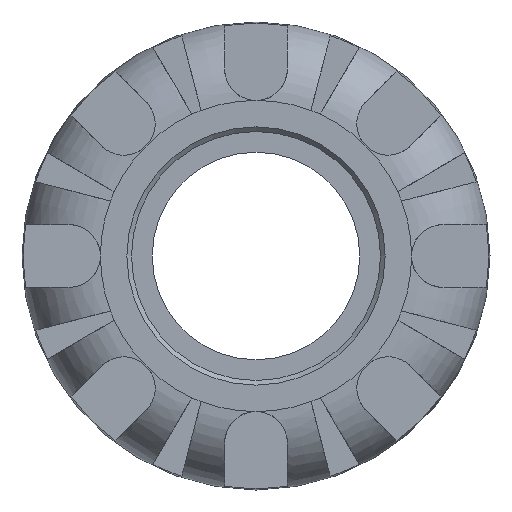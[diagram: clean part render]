
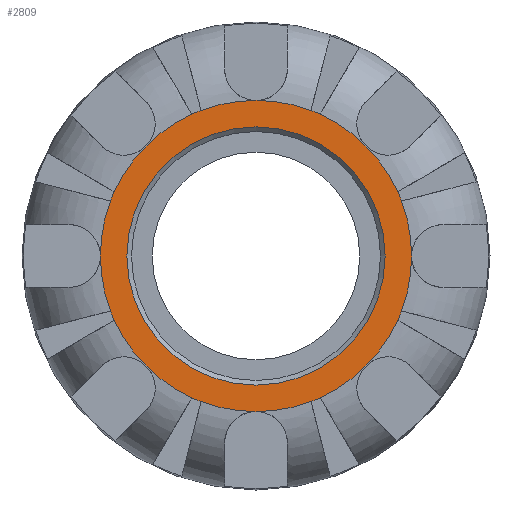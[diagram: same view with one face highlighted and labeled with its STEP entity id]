
A CAD part, left-side view. The second image highlights one B-rep face of the part: STEP entity #2809.
In plain terms, the highlighted planar face has unit normal (-1, 0, 0).
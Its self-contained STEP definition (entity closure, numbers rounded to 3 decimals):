
#25=FACE_BOUND('',#490,.T.);
#114=CIRCLE('',#3048,12.97);
#115=CIRCLE('',#3050,15.625);
#116=CIRCLE('',#3051,15.625);
#117=CIRCLE('',#3052,15.625);
#118=CIRCLE('',#3053,15.625);
#119=CIRCLE('',#3054,15.625);
#120=CIRCLE('',#3055,15.625);
#121=CIRCLE('',#3056,15.625);
#122=CIRCLE('',#3057,15.625);
#123=CIRCLE('',#3058,15.625);
#124=CIRCLE('',#3059,15.625);
#125=CIRCLE('',#3060,15.625);
#126=CIRCLE('',#3061,15.625);
#127=CIRCLE('',#3062,15.625);
#128=CIRCLE('',#3063,15.625);
#129=CIRCLE('',#3064,15.625);
#130=CIRCLE('',#3065,15.625);
#131=CIRCLE('',#3066,15.625);
#132=CIRCLE('',#3067,15.625);
#133=CIRCLE('',#3068,15.625);
#134=CIRCLE('',#3069,15.625);
#135=CIRCLE('',#3070,15.625);
#136=CIRCLE('',#3071,15.625);
#137=CIRCLE('',#3072,15.625);
#138=CIRCLE('',#3073,15.625);
#320=FACE_OUTER_BOUND('',#489,.T.);
#489=EDGE_LOOP('',(#2048,#2049,#2050,#2051,#2052,#2053,#2054,#2055,#2056,
#2057,#2058,#2059,#2060,#2061,#2062,#2063,#2064,#2065,#2066,#2067,#2068,
#2069,#2070,#2071));
#490=EDGE_LOOP('',(#2072));
#1115=VERTEX_POINT('',#5233);
#1116=VERTEX_POINT('',#5236);
#1117=VERTEX_POINT('',#5237);
#1118=VERTEX_POINT('',#5239);
#1119=VERTEX_POINT('',#5241);
#1120=VERTEX_POINT('',#5243);
#1121=VERTEX_POINT('',#5245);
#1122=VERTEX_POINT('',#5247);
#1123=VERTEX_POINT('',#5249);
#1124=VERTEX_POINT('',#5251);
#1125=VERTEX_POINT('',#5253);
#1126=VERTEX_POINT('',#5255);
#1127=VERTEX_POINT('',#5257);
#1128=VERTEX_POINT('',#5259);
#1129=VERTEX_POINT('',#5261);
#1130=VERTEX_POINT('',#5263);
#1131=VERTEX_POINT('',#5265);
#1132=VERTEX_POINT('',#5267);
#1133=VERTEX_POINT('',#5269);
#1134=VERTEX_POINT('',#5271);
#1135=VERTEX_POINT('',#5273);
#1136=VERTEX_POINT('',#5275);
#1137=VERTEX_POINT('',#5277);
#1138=VERTEX_POINT('',#5279);
#1139=VERTEX_POINT('',#5281);
#1449=EDGE_CURVE('',#1115,#1115,#114,.T.);
#1450=EDGE_CURVE('',#1116,#1117,#115,.T.);
#1451=EDGE_CURVE('',#1118,#1116,#116,.T.);
#1452=EDGE_CURVE('',#1119,#1118,#117,.T.);
#1453=EDGE_CURVE('',#1120,#1119,#118,.T.);
#1454=EDGE_CURVE('',#1121,#1120,#119,.T.);
#1455=EDGE_CURVE('',#1122,#1121,#120,.T.);
#1456=EDGE_CURVE('',#1123,#1122,#121,.T.);
#1457=EDGE_CURVE('',#1124,#1123,#122,.T.);
#1458=EDGE_CURVE('',#1125,#1124,#123,.T.);
#1459=EDGE_CURVE('',#1126,#1125,#124,.T.);
#1460=EDGE_CURVE('',#1127,#1126,#125,.T.);
#1461=EDGE_CURVE('',#1128,#1127,#126,.T.);
#1462=EDGE_CURVE('',#1129,#1128,#127,.T.);
#1463=EDGE_CURVE('',#1130,#1129,#128,.T.);
#1464=EDGE_CURVE('',#1131,#1130,#129,.T.);
#1465=EDGE_CURVE('',#1132,#1131,#130,.T.);
#1466=EDGE_CURVE('',#1133,#1132,#131,.T.);
#1467=EDGE_CURVE('',#1134,#1133,#132,.T.);
#1468=EDGE_CURVE('',#1135,#1134,#133,.T.);
#1469=EDGE_CURVE('',#1136,#1135,#134,.T.);
#1470=EDGE_CURVE('',#1137,#1136,#135,.T.);
#1471=EDGE_CURVE('',#1138,#1137,#136,.T.);
#1472=EDGE_CURVE('',#1139,#1138,#137,.T.);
#1473=EDGE_CURVE('',#1117,#1139,#138,.T.);
#2048=ORIENTED_EDGE('',*,*,#1450,.F.);
#2049=ORIENTED_EDGE('',*,*,#1451,.F.);
#2050=ORIENTED_EDGE('',*,*,#1452,.F.);
#2051=ORIENTED_EDGE('',*,*,#1453,.F.);
#2052=ORIENTED_EDGE('',*,*,#1454,.F.);
#2053=ORIENTED_EDGE('',*,*,#1455,.F.);
#2054=ORIENTED_EDGE('',*,*,#1456,.F.);
#2055=ORIENTED_EDGE('',*,*,#1457,.F.);
#2056=ORIENTED_EDGE('',*,*,#1458,.F.);
#2057=ORIENTED_EDGE('',*,*,#1459,.F.);
#2058=ORIENTED_EDGE('',*,*,#1460,.F.);
#2059=ORIENTED_EDGE('',*,*,#1461,.F.);
#2060=ORIENTED_EDGE('',*,*,#1462,.F.);
#2061=ORIENTED_EDGE('',*,*,#1463,.F.);
#2062=ORIENTED_EDGE('',*,*,#1464,.F.);
#2063=ORIENTED_EDGE('',*,*,#1465,.F.);
#2064=ORIENTED_EDGE('',*,*,#1466,.F.);
#2065=ORIENTED_EDGE('',*,*,#1467,.F.);
#2066=ORIENTED_EDGE('',*,*,#1468,.F.);
#2067=ORIENTED_EDGE('',*,*,#1469,.F.);
#2068=ORIENTED_EDGE('',*,*,#1470,.F.);
#2069=ORIENTED_EDGE('',*,*,#1471,.F.);
#2070=ORIENTED_EDGE('',*,*,#1472,.F.);
#2071=ORIENTED_EDGE('',*,*,#1473,.F.);
#2072=ORIENTED_EDGE('',*,*,#1449,.F.);
#2507=PLANE('',#3049);
#2809=ADVANCED_FACE('',(#320,#25),#2507,.T.);
#3048=AXIS2_PLACEMENT_3D('',#5234,#3591,#3592);
#3049=AXIS2_PLACEMENT_3D('',#5235,#3593,#3594);
#3050=AXIS2_PLACEMENT_3D('',#5238,#3595,#3596);
#3051=AXIS2_PLACEMENT_3D('',#5240,#3597,#3598);
#3052=AXIS2_PLACEMENT_3D('',#5242,#3599,#3600);
#3053=AXIS2_PLACEMENT_3D('',#5244,#3601,#3602);
#3054=AXIS2_PLACEMENT_3D('',#5246,#3603,#3604);
#3055=AXIS2_PLACEMENT_3D('',#5248,#3605,#3606);
#3056=AXIS2_PLACEMENT_3D('',#5250,#3607,#3608);
#3057=AXIS2_PLACEMENT_3D('',#5252,#3609,#3610);
#3058=AXIS2_PLACEMENT_3D('',#5254,#3611,#3612);
#3059=AXIS2_PLACEMENT_3D('',#5256,#3613,#3614);
#3060=AXIS2_PLACEMENT_3D('',#5258,#3615,#3616);
#3061=AXIS2_PLACEMENT_3D('',#5260,#3617,#3618);
#3062=AXIS2_PLACEMENT_3D('',#5262,#3619,#3620);
#3063=AXIS2_PLACEMENT_3D('',#5264,#3621,#3622);
#3064=AXIS2_PLACEMENT_3D('',#5266,#3623,#3624);
#3065=AXIS2_PLACEMENT_3D('',#5268,#3625,#3626);
#3066=AXIS2_PLACEMENT_3D('',#5270,#3627,#3628);
#3067=AXIS2_PLACEMENT_3D('',#5272,#3629,#3630);
#3068=AXIS2_PLACEMENT_3D('',#5274,#3631,#3632);
#3069=AXIS2_PLACEMENT_3D('',#5276,#3633,#3634);
#3070=AXIS2_PLACEMENT_3D('',#5278,#3635,#3636);
#3071=AXIS2_PLACEMENT_3D('',#5280,#3637,#3638);
#3072=AXIS2_PLACEMENT_3D('',#5282,#3639,#3640);
#3073=AXIS2_PLACEMENT_3D('',#5283,#3641,#3642);
#3591=DIRECTION('center_axis',(-1.,0.,0.));
#3592=DIRECTION('ref_axis',(0.,-1.,0.));
#3593=DIRECTION('center_axis',(-1.,0.,0.));
#3594=DIRECTION('ref_axis',(0.,0.,1.));
#3595=DIRECTION('center_axis',(1.,0.,0.));
#3596=DIRECTION('ref_axis',(0.,0.,-1.));
#3597=DIRECTION('center_axis',(1.,0.,0.));
#3598=DIRECTION('ref_axis',(0.,0.,-1.));
#3599=DIRECTION('center_axis',(1.,0.,0.));
#3600=DIRECTION('ref_axis',(0.,0.,-1.));
#3601=DIRECTION('center_axis',(1.,0.,0.));
#3602=DIRECTION('ref_axis',(0.,0.,-1.));
#3603=DIRECTION('center_axis',(1.,0.,0.));
#3604=DIRECTION('ref_axis',(0.,0.,-1.));
#3605=DIRECTION('center_axis',(1.,0.,0.));
#3606=DIRECTION('ref_axis',(0.,0.,-1.));
#3607=DIRECTION('center_axis',(1.,0.,0.));
#3608=DIRECTION('ref_axis',(0.,0.,-1.));
#3609=DIRECTION('center_axis',(1.,0.,0.));
#3610=DIRECTION('ref_axis',(0.,0.,-1.));
#3611=DIRECTION('center_axis',(1.,0.,0.));
#3612=DIRECTION('ref_axis',(0.,0.,-1.));
#3613=DIRECTION('center_axis',(1.,0.,0.));
#3614=DIRECTION('ref_axis',(0.,0.,-1.));
#3615=DIRECTION('center_axis',(1.,0.,0.));
#3616=DIRECTION('ref_axis',(0.,0.,-1.));
#3617=DIRECTION('center_axis',(1.,0.,0.));
#3618=DIRECTION('ref_axis',(0.,0.,-1.));
#3619=DIRECTION('center_axis',(1.,0.,0.));
#3620=DIRECTION('ref_axis',(0.,0.,-1.));
#3621=DIRECTION('center_axis',(1.,0.,0.));
#3622=DIRECTION('ref_axis',(0.,0.,-1.));
#3623=DIRECTION('center_axis',(1.,0.,0.));
#3624=DIRECTION('ref_axis',(0.,0.,-1.));
#3625=DIRECTION('center_axis',(1.,0.,0.));
#3626=DIRECTION('ref_axis',(0.,0.,-1.));
#3627=DIRECTION('center_axis',(1.,0.,0.));
#3628=DIRECTION('ref_axis',(0.,0.,-1.));
#3629=DIRECTION('center_axis',(1.,0.,0.));
#3630=DIRECTION('ref_axis',(0.,0.,-1.));
#3631=DIRECTION('center_axis',(1.,0.,0.));
#3632=DIRECTION('ref_axis',(0.,0.,-1.));
#3633=DIRECTION('center_axis',(1.,0.,0.));
#3634=DIRECTION('ref_axis',(0.,0.,-1.));
#3635=DIRECTION('center_axis',(1.,0.,0.));
#3636=DIRECTION('ref_axis',(0.,0.,-1.));
#3637=DIRECTION('center_axis',(1.,0.,0.));
#3638=DIRECTION('ref_axis',(0.,0.,-1.));
#3639=DIRECTION('center_axis',(1.,0.,0.));
#3640=DIRECTION('ref_axis',(0.,0.,-1.));
#3641=DIRECTION('center_axis',(1.,0.,0.));
#3642=DIRECTION('ref_axis',(0.,0.,-1.));
#5233=CARTESIAN_POINT('',(-50.,12.97,0.));
#5234=CARTESIAN_POINT('Origin',(-50.,0.,0.));
#5235=CARTESIAN_POINT('Origin',(-50.,15.625,0.));
#5236=CARTESIAN_POINT('',(-50.,15.625,0.));
#5237=CARTESIAN_POINT('',(-50.,14.62,5.514));
#5238=CARTESIAN_POINT('Origin',(-50.,0.,0.));
#5239=CARTESIAN_POINT('',(-50.,14.62,-5.514));
#5240=CARTESIAN_POINT('Origin',(-50.,0.,0.));
#5241=CARTESIAN_POINT('',(-50.,14.237,-6.438));
#5242=CARTESIAN_POINT('Origin',(-50.,0.,0.));
#5243=CARTESIAN_POINT('',(-50.,11.049,-11.049));
#5244=CARTESIAN_POINT('Origin',(-50.,0.,0.));
#5245=CARTESIAN_POINT('',(-50.,6.438,-14.237));
#5246=CARTESIAN_POINT('Origin',(-50.,0.,0.));
#5247=CARTESIAN_POINT('',(-50.,5.514,-14.62));
#5248=CARTESIAN_POINT('Origin',(-50.,0.,0.));
#5249=CARTESIAN_POINT('',(-50.,0.,-15.625));
#5250=CARTESIAN_POINT('Origin',(-50.,0.,0.));
#5251=CARTESIAN_POINT('',(-50.,-5.514,-14.62));
#5252=CARTESIAN_POINT('Origin',(-50.,0.,0.));
#5253=CARTESIAN_POINT('',(-50.,-6.438,-14.237));
#5254=CARTESIAN_POINT('Origin',(-50.,0.,0.));
#5255=CARTESIAN_POINT('',(-50.,-11.049,-11.049));
#5256=CARTESIAN_POINT('Origin',(-50.,0.,0.));
#5257=CARTESIAN_POINT('',(-50.,-14.237,-6.438));
#5258=CARTESIAN_POINT('Origin',(-50.,0.,0.));
#5259=CARTESIAN_POINT('',(-50.,-14.62,-5.514));
#5260=CARTESIAN_POINT('Origin',(-50.,0.,0.));
#5261=CARTESIAN_POINT('',(-50.,-15.625,0.));
#5262=CARTESIAN_POINT('Origin',(-50.,0.,0.));
#5263=CARTESIAN_POINT('',(-50.,-14.62,5.514));
#5264=CARTESIAN_POINT('Origin',(-50.,0.,0.));
#5265=CARTESIAN_POINT('',(-50.,-14.237,6.438));
#5266=CARTESIAN_POINT('Origin',(-50.,0.,0.));
#5267=CARTESIAN_POINT('',(-50.,-11.049,11.049));
#5268=CARTESIAN_POINT('Origin',(-50.,0.,0.));
#5269=CARTESIAN_POINT('',(-50.,-6.438,14.237));
#5270=CARTESIAN_POINT('Origin',(-50.,0.,0.));
#5271=CARTESIAN_POINT('',(-50.,-5.514,14.62));
#5272=CARTESIAN_POINT('Origin',(-50.,0.,0.));
#5273=CARTESIAN_POINT('',(-50.,0.,15.625));
#5274=CARTESIAN_POINT('Origin',(-50.,0.,0.));
#5275=CARTESIAN_POINT('',(-50.,5.514,14.62));
#5276=CARTESIAN_POINT('Origin',(-50.,0.,0.));
#5277=CARTESIAN_POINT('',(-50.,6.438,14.237));
#5278=CARTESIAN_POINT('Origin',(-50.,0.,0.));
#5279=CARTESIAN_POINT('',(-50.,11.049,11.049));
#5280=CARTESIAN_POINT('Origin',(-50.,0.,0.));
#5281=CARTESIAN_POINT('',(-50.,14.237,6.438));
#5282=CARTESIAN_POINT('Origin',(-50.,0.,0.));
#5283=CARTESIAN_POINT('Origin',(-50.,0.,0.));
